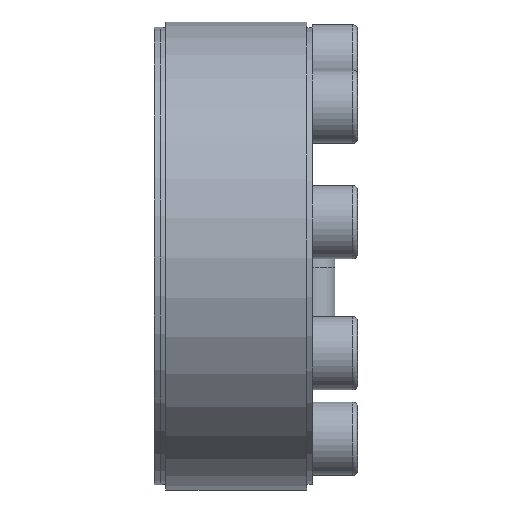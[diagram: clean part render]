
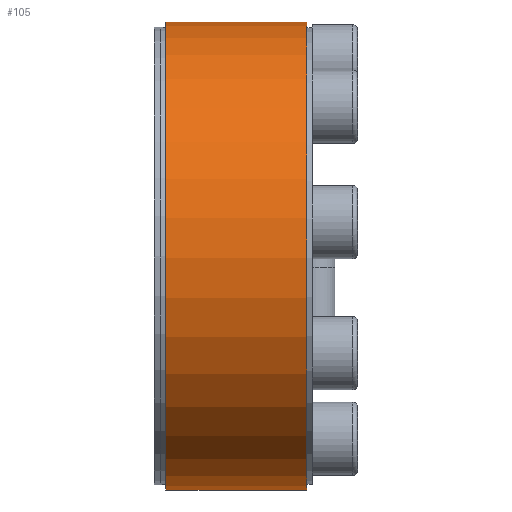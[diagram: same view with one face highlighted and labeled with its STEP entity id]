
A CAD part, left-side view. The second image highlights one B-rep face of the part: STEP entity #105.
In plain terms, the highlighted cylindrical face has radius 41.5 mm (diameter 83 mm), a partial arc.
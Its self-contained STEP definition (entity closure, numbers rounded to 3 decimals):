
#105 = ADVANCED_FACE( '', ( #229 ), #230, .T. );
#229 = FACE_OUTER_BOUND( '', #379, .T. );
#230 = CYLINDRICAL_SURFACE( '', #380, 41.5 );
#379 = EDGE_LOOP( '', ( #634, #635, #636, #637 ) );
#380 = AXIS2_PLACEMENT_3D( '', #638, #639, #640 );
#634 = ORIENTED_EDGE( '', *, *, #809, .F. );
#635 = ORIENTED_EDGE( '', *, *, #831, .T. );
#636 = ORIENTED_EDGE( '', *, *, #855, .T. );
#637 = ORIENTED_EDGE( '', *, *, #839, .F. );
#638 = CARTESIAN_POINT( '', ( 0., -60., 0. ) );
#639 = DIRECTION( '', ( 0., 1., 0. ) );
#640 = DIRECTION( '', ( 0., 0., -1. ) );
#809 = EDGE_CURVE( '', #974, #975, #976, .T. );
#831 = EDGE_CURVE( '', #974, #1015, #1016, .T. );
#839 = EDGE_CURVE( '', #975, #1027, #1028, .T. );
#855 = EDGE_CURVE( '', #1015, #1027, #1053, .T. );
#974 = VERTEX_POINT( '', #1266 );
#975 = VERTEX_POINT( '', #1267 );
#976 = LINE( '', #1268, #1269 );
#1015 = VERTEX_POINT( '', #1321 );
#1016 = CIRCLE( '', #1322, 41.5 );
#1027 = VERTEX_POINT( '', #1336 );
#1028 = CIRCLE( '', #1337, 41.5 );
#1053 = LINE( '', #1374, #1375 );
#1266 = CARTESIAN_POINT( '', ( 13.25, 26., 39.328 ) );
#1267 = CARTESIAN_POINT( '', ( 13.25, 1., 39.328 ) );
#1268 = CARTESIAN_POINT( '', ( 13.25, -60., 39.328 ) );
#1269 = VECTOR( '', #1477, 1000. );
#1321 = CARTESIAN_POINT( '', ( 15.129, 26., 38.644 ) );
#1322 = AXIS2_PLACEMENT_3D( '', #1512, #1513, #1514 );
#1336 = CARTESIAN_POINT( '', ( 15.129, 1., 38.644 ) );
#1337 = AXIS2_PLACEMENT_3D( '', #1524, #1525, #1526 );
#1374 = CARTESIAN_POINT( '', ( 15.129, -60., 38.644 ) );
#1375 = VECTOR( '', #1542, 1000. );
#1477 = DIRECTION( '', ( 0., -1., 0. ) );
#1512 = CARTESIAN_POINT( '', ( 0., 26., 0. ) );
#1513 = DIRECTION( '', ( 0., -1., 0. ) );
#1514 = DIRECTION( '', ( 0., 0., -1. ) );
#1524 = CARTESIAN_POINT( '', ( 0., 1., 0. ) );
#1525 = DIRECTION( '', ( 0., -1., 0. ) );
#1526 = DIRECTION( '', ( 0., 0., -1. ) );
#1542 = DIRECTION( '', ( 0., -1., 0. ) );
